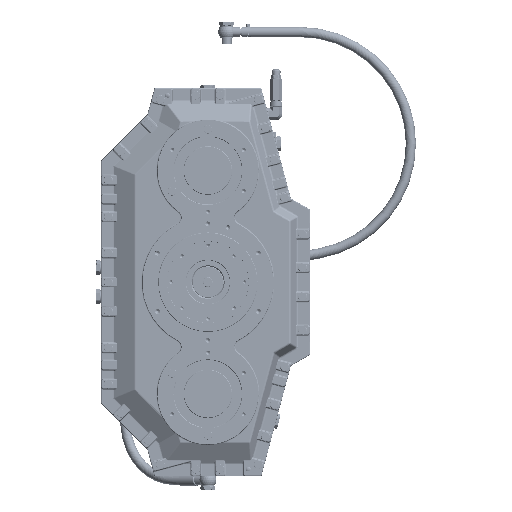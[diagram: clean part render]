
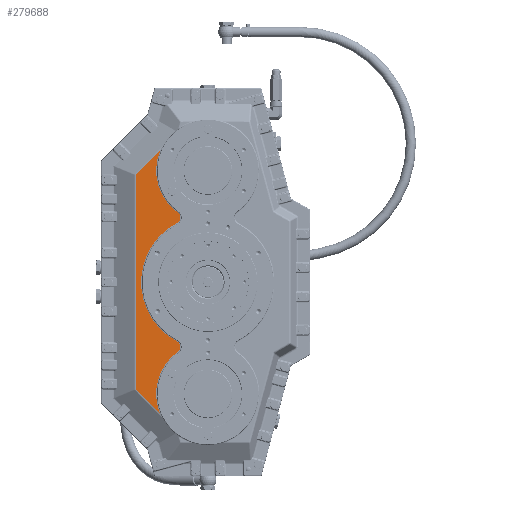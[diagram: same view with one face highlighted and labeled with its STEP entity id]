
A CAD part, top view. The second image highlights one B-rep face of the part: STEP entity #279688.
In plain terms, the highlighted planar face has unit normal (0, 0, 1).
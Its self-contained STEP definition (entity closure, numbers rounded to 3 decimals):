
#257573 = CARTESIAN_POINT ( 'NONE',  ( -63.362, -122.047, 35. ) ) ;
#258284 = CARTESIAN_POINT ( 'NONE',  ( -63.362, 122.047, 35. ) ) ;
#258345 = DIRECTION ( 'NONE',  ( 0., 1., 0. ) ) ;
#258346 = DIRECTION ( 'NONE',  ( 0., 0., 1. ) ) ;
#258348 = CARTESIAN_POINT ( 'NONE',  ( -69.115, 133.128, 35. ) ) ;
#258350 = AXIS2_PLACEMENT_3D ( 'NONE', #258348, #258346, #258345 ) ;
#258351 = CIRCLE ( 'NONE', #258350, 12.486 ) ;
#258363 = CARTESIAN_POINT ( 'NONE',  ( -61.863, 143.293, 35. ) ) ;
#258898 = DIRECTION ( 'NONE',  ( 0., 1., 0. ) ) ;
#258900 = DIRECTION ( 'NONE',  ( 0., 0., -1. ) ) ;
#258901 = CARTESIAN_POINT ( 'NONE',  ( 0., 0., 35. ) ) ;
#258903 = AXIS2_PLACEMENT_3D ( 'NONE', #258901, #258900, #258898 ) ;
#258906 = CIRCLE ( 'NONE', #258903, 137.514 ) ;
#259205 = CARTESIAN_POINT ( 'NONE',  ( -98., 271.728, 35. ) ) ;
#259322 = DIRECTION ( 'NONE',  ( 0., 1., 0. ) ) ;
#259324 = DIRECTION ( 'NONE',  ( 0., 0., -1. ) ) ;
#259326 = CARTESIAN_POINT ( 'NONE',  ( 0., 230., 35. ) ) ;
#259328 = AXIS2_PLACEMENT_3D ( 'NONE', #259326, #259324, #259322 ) ;
#259331 = CIRCLE ( 'NONE', #259328, 106.514 ) ;
#259502 = CARTESIAN_POINT ( 'NONE',  ( -61.863, -143.293, 35. ) ) ;
#259616 = DIRECTION ( 'NONE',  ( 0., 1., 0. ) ) ;
#259618 = DIRECTION ( 'NONE',  ( 0., 0., 1. ) ) ;
#259620 = CARTESIAN_POINT ( 'NONE',  ( -69.115, -133.128, 35. ) ) ;
#259622 = AXIS2_PLACEMENT_3D ( 'NONE', #259620, #259618, #259616 ) ;
#259624 = CIRCLE ( 'NONE', #259622, 12.486 ) ;
#260573 = CARTESIAN_POINT ( 'NONE',  ( -98., -271.728, 35. ) ) ;
#260650 = DIRECTION ( 'NONE',  ( 0., 0., -1. ) ) ;
#260652 = CARTESIAN_POINT ( 'NONE',  ( 0., -230., 35. ) ) ;
#260654 = AXIS2_PLACEMENT_3D ( 'NONE', #260652, #260650, #260890 ) ;
#260657 = CIRCLE ( 'NONE', #260654, 106.514 ) ;
#260890 = DIRECTION ( 'NONE',  ( 0., 1., 0. ) ) ;
#267638 = VERTEX_POINT ( 'NONE', #257573 ) ;
#267797 = VERTEX_POINT ( 'NONE', #258363 ) ;
#267814 = EDGE_CURVE ( 'NONE', #267828, #267797, #258351, .T. ) ;
#267828 = VERTEX_POINT ( 'NONE', #258284 ) ;
#267979 = EDGE_CURVE ( 'NONE', #267638, #267828, #258906, .T. ) ;
#268013 = VERTEX_POINT ( 'NONE', #259205 ) ;
#268036 = EDGE_CURVE ( 'NONE', #267797, #268013, #259331, .T. ) ;
#268098 = VERTEX_POINT ( 'NONE', #259502 ) ;
#268132 = EDGE_CURVE ( 'NONE', #268098, #267638, #259624, .T. ) ;
#268235 = VERTEX_POINT ( 'NONE', #260573 ) ;
#268284 = EDGE_CURVE ( 'NONE', #268235, #268098, #260657, .T. ) ;
#271748 = EDGE_CURVE ( 'NONE', #271934, #271806, #279861, .T. ) ;
#271798 = EDGE_CURVE ( 'NONE', #271806, #268235, #280180, .T. ) ;
#271806 = VERTEX_POINT ( 'NONE', #280170 ) ;
#271848 = EDGE_CURVE ( 'NONE', #268013, #271934, #280530, .T. ) ;
#271934 = VERTEX_POINT ( 'NONE', #280904 ) ;
#279512 = ORIENTED_EDGE ( 'NONE', *, *, #271798, .T. ) ;
#279534 = ORIENTED_EDGE ( 'NONE', *, *, #268284, .T. ) ;
#279688 = ADVANCED_FACE ( 'NONE', ( #310721 ), #310684, .F. ) ;
#279699 = EDGE_LOOP ( 'NONE', ( #279709, #279722, #279733, #279745, #279512, #279534, #279937, #279954 ) ) ;
#279709 = ORIENTED_EDGE ( 'NONE', *, *, #267814, .T. ) ;
#279722 = ORIENTED_EDGE ( 'NONE', *, *, #268036, .T. ) ;
#279733 = ORIENTED_EDGE ( 'NONE', *, *, #271848, .T. ) ;
#279745 = ORIENTED_EDGE ( 'NONE', *, *, #271748, .T. ) ;
#279859 = CARTESIAN_POINT ( 'NONE',  ( -149.097, 126.314, 35. ) ) ;
#279861 = LINE ( 'NONE', #279859, #280084 ) ;
#279937 = ORIENTED_EDGE ( 'NONE', *, *, #268132, .T. ) ;
#279954 = ORIENTED_EDGE ( 'NONE', *, *, #267979, .T. ) ;
#280083 = DIRECTION ( 'NONE',  ( 0., -1., 0. ) ) ;
#280084 = VECTOR ( 'NONE', #280083, 1000. ) ;
#280170 = CARTESIAN_POINT ( 'NONE',  ( -149.097, -220.631, 35. ) ) ;
#280173 = DIRECTION ( 'NONE',  ( 0.707, -0.707, 0. ) ) ;
#280176 = VECTOR ( 'NONE', #280173, 1000. ) ;
#280179 = CARTESIAN_POINT ( 'NONE',  ( -122.508, -247.22, 35. ) ) ;
#280180 = LINE ( 'NONE', #280179, #280176 ) ;
#280523 = DIRECTION ( 'NONE',  ( -0.707, -0.707, 0. ) ) ;
#280525 = VECTOR ( 'NONE', #280523, 1000. ) ;
#280528 = CARTESIAN_POINT ( 'NONE',  ( 3.806, 373.534, 35. ) ) ;
#280530 = LINE ( 'NONE', #280528, #280525 ) ;
#280904 = CARTESIAN_POINT ( 'NONE',  ( -149.097, 220.631, 35. ) ) ;
#310681 = CARTESIAN_POINT ( 'NONE',  ( 251.025, 126.314, 35. ) ) ;
#310682 = AXIS2_PLACEMENT_3D ( 'NONE', #310681, #310793, #310792 ) ;
#310684 = PLANE ( 'NONE',  #310682 ) ;
#310721 = FACE_OUTER_BOUND ( 'NONE', #279699, .T. ) ;
#310792 = DIRECTION ( 'NONE',  ( 0., 1., 0. ) ) ;
#310793 = DIRECTION ( 'NONE',  ( 0., 0., -1. ) ) ;
